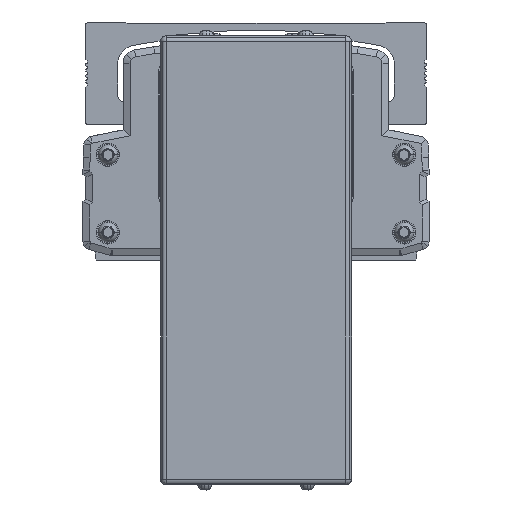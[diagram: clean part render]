
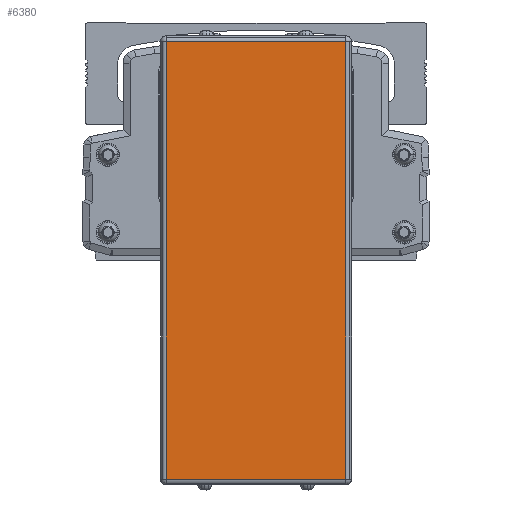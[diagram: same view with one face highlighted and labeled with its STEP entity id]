
A CAD part, front view. The second image highlights one B-rep face of the part: STEP entity #6380.
In plain terms, the highlighted planar face has unit normal (0, -1, 0).
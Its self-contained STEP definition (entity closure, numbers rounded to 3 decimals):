
#6380=ADVANCED_FACE('',(#12934),#12935,.T.);
#12934=FACE_OUTER_BOUND('',#21197,.T.);
#12935=PLANE('',#21198);
#21197=EDGE_LOOP('',(#39974,#39975,#39976,#39977));
#21198=AXIS2_PLACEMENT_3D('',#39978,#39979,#39980);
#39974=ORIENTED_EDGE('',*,*,#44663,.F.);
#39975=ORIENTED_EDGE('',*,*,#45161,.F.);
#39976=ORIENTED_EDGE('',*,*,#44036,.F.);
#39977=ORIENTED_EDGE('',*,*,#44180,.F.);
#39978=CARTESIAN_POINT('',(-299.996,-313.778,-49.1));
#39979=DIRECTION('',(0.,-1.0,0.));
#39980=DIRECTION('',(1.0,0.,0.));
#44036=EDGE_CURVE('',#53655,#49454,#53657,.T.);
#44180=EDGE_CURVE('',#53890,#53655,#53892,.T.);
#44663=EDGE_CURVE('',#54597,#53890,#54599,.T.);
#45161=EDGE_CURVE('',#49454,#54597,#55336,.T.);
#49454=VERTEX_POINT('',#61028);
#53655=VERTEX_POINT('',#67147);
#53657=LINE('',#67149,#67150);
#53890=VERTEX_POINT('',#67514);
#53892=LINE('',#67516,#67517);
#54597=VERTEX_POINT('',#68575);
#54599=LINE('',#68577,#68578);
#55336=LINE('',#69669,#69670);
#61028=CARTESIAN_POINT('',(-332.496,-313.778,30.));
#67147=CARTESIAN_POINT('',(-332.496,-313.778,-128.2));
#67149=CARTESIAN_POINT('',(-332.496,-313.778,-49.1));
#67150=VECTOR('',#80135,10.0);
#67514=CARTESIAN_POINT('',(-267.496,-313.778,-128.2));
#67516=CARTESIAN_POINT('',(-299.996,-313.778,-128.2));
#67517=VECTOR('',#80300,10.0);
#68575=CARTESIAN_POINT('',(-267.496,-313.778,30.));
#68577=CARTESIAN_POINT('',(-267.496,-313.778,-49.1));
#68578=VECTOR('',#80822,10.0);
#69669=CARTESIAN_POINT('',(-299.996,-313.778,30.));
#69670=VECTOR('',#81389,10.0);
#80135=DIRECTION('',(0.0,0.,1.0));
#80300=DIRECTION('',(-1.0,0.,0.));
#80822=DIRECTION('',(0.0,0.,-1.0));
#81389=DIRECTION('',(1.0,0.,0.));
